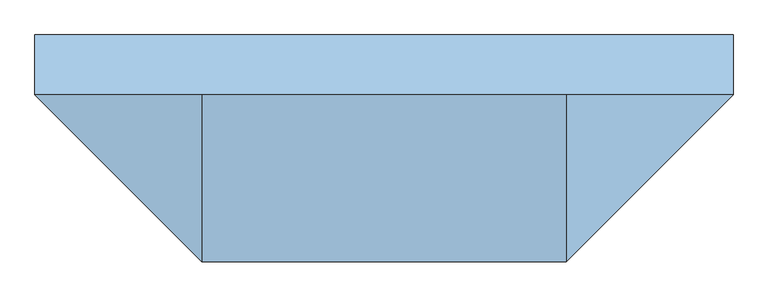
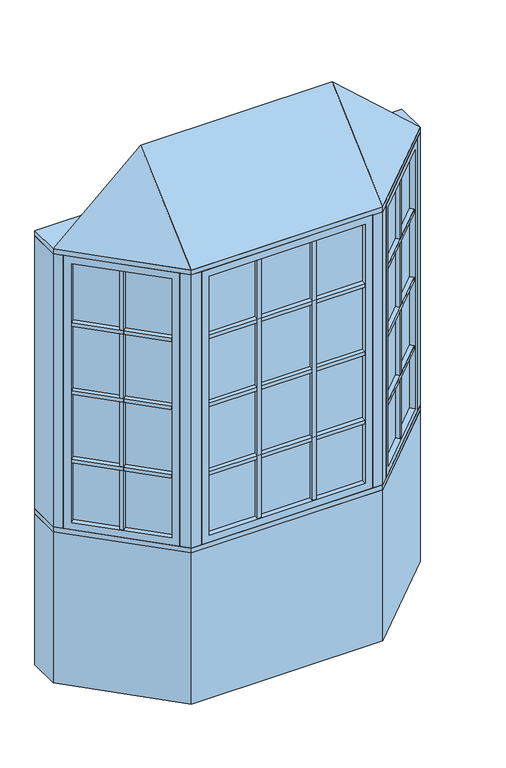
"""IFC4 building model written with IfcOpenShell, lengths in millimetres: window geometry, Pollard_Windows_Tudor Casement Bows and Bays : AML-BAY 45 AFR0514-08-500_GC."""

from ifc_helpers import new_model, si_unit, frame, origin, origin_with_axes, place, context, project, spatial, polyline, outline, extrude, faceted_brep, source, transform, mapped, element, save


def window_26590843(model_context):
    return source(origin(), model_context, "Body", "SolidModel", [
        extrude(outline(polyline([(522.8614193, -437.1108753), (507.3050701, -421.5545261), (815.116171, -113.7434252), (830.6725202, -129.2997743), (522.8614193, -437.1108753)])), frame((0.0, 0.0, 1490.998), z_axis=(0.0, 0.0, 1.0), x_axis=(1.0, 0.0, 0.0)), (0.0, 0.0, 1.0), 18.0),
        extrude(outline(polyline([(503.7129677, -417.9624236), (488.1566185, -402.4060744), (795.9677194, -94.5949735), (811.5240686, -110.1513227), (503.7129677, -417.9624236)])), frame((0.0, 0.0, 1490.998), z_axis=(0.0, 0.0, 1.0), x_axis=(1.0, 0.0, 0.0)), (0.0, 0.0, 1.0), 18.0),
        extrude(outline(polyline([(522.8614193, -437.1108753), (507.3050701, -421.5545261), (815.116171, -113.7434252), (830.6725202, -129.2997743), (522.8614193, -437.1108753)])), frame((0.0, 0.0, 1140.998), z_axis=(0.0, 0.0, 1.0), x_axis=(1.0, 0.0, 0.0)), (0.0, 0.0, 1.0), 18.0),
        extrude(outline(polyline([(503.7129677, -417.9624236), (488.1566185, -402.4060744), (795.9677194, -94.5949735), (811.5240686, -110.1513227), (503.7129677, -417.9624236)])), frame((0.0, 0.0, 1140.998), z_axis=(0.0, 0.0, 1.0), x_axis=(1.0, 0.0, 0.0)), (0.0, 0.0, 1.0), 18.0),
        extrude(outline(polyline([(522.8614193, -437.1108753), (507.3050701, -421.5545261), (815.116171, -113.7434252), (830.6725202, -129.2997743), (522.8614193, -437.1108753)])), frame((0.0, 0.0, 1490.998), z_axis=(0.0, 0.0, 1.0), x_axis=(1.0, 0.0, 0.0)), (0.0, 0.0, 1.0), 18.0),
        extrude(outline(polyline([(503.7129677, -417.9624236), (488.1566185, -402.4060744), (795.9677194, -94.5949735), (811.5240686, -110.1513227), (503.7129677, -417.9624236)])), frame((0.0, 0.0, 1490.998), z_axis=(0.0, 0.0, 1.0), x_axis=(1.0, 0.0, 0.0)), (0.0, 0.0, 1.0), 18.0),
        extrude(outline(polyline([(522.8614193, -437.1108753), (507.3050701, -421.5545261), (815.116171, -113.7434252), (830.6725202, -129.2997743), (522.8614193, -437.1108753)])), frame((0.0, 0.0, 1490.998), z_axis=(0.0, 0.0, 1.0), x_axis=(1.0, 0.0, 0.0)), (0.0, 0.0, 1.0), 18.0),
        extrude(outline(polyline([(503.7129677, -417.9624236), (488.1566185, -402.4060744), (795.9677194, -94.5949735), (811.5240686, -110.1513227), (503.7129677, -417.9624236)])), frame((0.0, 0.0, 1490.998), z_axis=(0.0, 0.0, 1.0), x_axis=(1.0, 0.0, 0.0)), (0.0, 0.0, 1.0), 18.0),
        extrude(outline(polyline([(522.8614193, -437.1108753), (507.3050701, -421.5545261), (815.116171, -113.7434252), (830.6725202, -129.2997743), (522.8614193, -437.1108753)])), frame((0.0, 0.0, 1840.998), z_axis=(0.0, 0.0, 1.0), x_axis=(1.0, 0.0, 0.0)), (0.0, 0.0, 1.0), 18.0),
        extrude(outline(polyline([(503.7129677, -417.9624236), (488.1566185, -402.4060744), (795.9677194, -94.5949735), (811.5240686, -110.1513227), (503.7129677, -417.9624236)])), frame((0.0, 0.0, 1840.998), z_axis=(0.0, 0.0, 1.0), x_axis=(1.0, 0.0, 0.0)), (0.0, 0.0, 1.0), 18.0),
        extrude(outline(polyline([(667.5745816, -261.2850146), (683.1309308, -276.8413638), (670.4030087, -289.5692858), (654.8466595, -274.0129366), (667.5745816, -261.2850146)])), frame((0.0, 0.0, 835.8628), z_axis=(0.0, 0.0, 1.0), x_axis=(1.0, 0.0, 0.0)), (0.0, 0.0, 1.0), 1328.2704),
        extrude(outline(polyline([(663.9824791, -257.6929121), (651.2545571, -270.4208342), (635.6982079, -254.864485), (648.42613, -242.1365629), (663.9824791, -257.6929121)])), frame((0.0, 0.0, 835.8628), z_axis=(0.0, 0.0, 1.0), x_axis=(1.0, 0.0, 0.0)), (0.0, 0.0, 1.0), 1328.2704),
        extrude(outline(polyline([(824.0964271, -104.763169), (498.324814, -430.5347822), (494.7327115, -426.9426797), (820.5043247, -101.1710666), (824.0964271, -104.763169)])), frame((0.0, 0.0, 823.1628), z_axis=(0.0, 0.0, 1.0), x_axis=(1.0, 0.0, 0.0)), (0.0, 0.0, 1.0), 1353.6704),
        faceted_brep([(815.116171, -113.7434252, 835.8628), (833.0766833, -131.7039374, 835.8628), (833.0766833, -131.7039374, 2164.1332), (815.116171, -113.7434252, 2164.1332), (820.5043247, -101.1710666, 823.1628), (824.0964271, -104.763169, 823.1628), (824.0964271, -104.763169, 2176.8332), (820.5043247, -101.1710666, 2176.8332), (793.5635563, -92.1908105, 835.8628), (811.5240686, -110.1513227, 835.8628), (811.5240686, -110.1513227, 2164.1332), (793.5635563, -92.1908105, 2164.1332), (858.4369265, -106.3436941, 799.998), (818.9237996, -66.8305672, 799.998), (818.9237996, -66.8305672, 2199.998), (858.4369265, -106.3436941, 2199.998), (525.2655823, -439.5150383, 2164.1332), (507.3050701, -421.5545261, 2164.1332), (498.324814, -430.5347822, 2176.8332), (494.7327115, -426.9426797, 2176.8332), (503.7129677, -417.9624236, 2164.1332), (485.7524554, -400.0019114, 2164.1332), (460.3922121, -425.3621547, 2199.998), (499.9053391, -464.8752816, 2199.998), (525.2655823, -439.5150383, 835.8628), (507.3050701, -421.5545261, 835.8628), (498.324814, -430.5347822, 823.1628), (494.7327115, -426.9426797, 823.1628), (503.7129677, -417.9624236, 835.8628), (485.7524554, -400.0019114, 835.8628), (460.3922121, -425.3621547, 799.998), (499.9053391, -464.8752816, 799.998)], [[[0, 1, 2, 3]], [[4, 5, 6, 7]], [[8, 9, 10, 11]], [[12, 13, 14, 15]], [[3, 2, 16, 17]], [[7, 6, 18, 19]], [[11, 10, 20, 21]], [[15, 14, 22, 23]], [[17, 16, 24, 25]], [[19, 18, 26, 27]], [[21, 20, 28, 29]], [[23, 22, 30, 31]], [[25, 24, 1, 0]], [[5, 26, 18, 6], [3, 17, 25, 0]], [[27, 26, 5, 4]], [[7, 19, 27, 4], [9, 28, 20, 10]], [[29, 28, 9, 8]], [[13, 30, 22, 14], [11, 21, 29, 8]], [[31, 30, 13, 12]], [[15, 23, 31, 12], [1, 24, 16, 2]]]),
        extrude(outline(polyline([(142.4618667, -474.8306207), (142.4618667, -496.8306207), (124.4618667, -496.8306207), (124.4618667, -474.8306207), (142.4618667, -474.8306207)])), frame((0.0, 0.0, 835.8628), z_axis=(0.0, 0.0, 1.0), x_axis=(1.0, 0.0, 0.0)), (0.0, 0.0, 1.0), 1328.2704),
        extrude(outline(polyline([(142.4618667, -469.7506207), (124.4618667, -469.7506207), (124.4618667, -447.7506207), (142.4618667, -447.7506207), (142.4618667, -469.7506207)])), frame((0.0, 0.0, 835.8628), z_axis=(0.0, 0.0, 1.0), x_axis=(1.0, 0.0, 0.0)), (0.0, 0.0, 1.0), 1328.2704),
        extrude(outline(polyline([(-124.4618667, -474.8306207), (-124.4618667, -496.8306207), (-142.4618667, -496.8306207), (-142.4618667, -474.8306207), (-124.4618667, -474.8306207)])), frame((0.0, 0.0, 835.8628), z_axis=(0.0, 0.0, 1.0), x_axis=(1.0, 0.0, 0.0)), (0.0, 0.0, 1.0), 1328.2704),
        extrude(outline(polyline([(-124.4618667, -469.7506207), (-142.4618667, -469.7506207), (-142.4618667, -447.7506207), (-124.4618667, -447.7506207), (-124.4618667, -469.7506207)])), frame((0.0, 0.0, 835.8628), z_axis=(0.0, 0.0, 1.0), x_axis=(1.0, 0.0, 0.0)), (0.0, 0.0, 1.0), 1328.2704),
        extrude(outline(polyline([(-378.6852, -496.8306207), (-378.6852, -474.8306207), (378.6852, -474.8306207), (378.6852, -496.8306207), (-378.6852, -496.8306207)])), frame((0.0, 0.0, 1140.998), z_axis=(0.0, 0.0, 1.0), x_axis=(1.0, 0.0, 0.0)), (0.0, 0.0, 1.0), 18.0),
        extrude(outline(polyline([(-378.6852, -469.7506207), (-378.6852, -447.7506207), (378.6852, -447.7506207), (378.6852, -469.7506207), (-378.6852, -469.7506207)])), frame((0.0, 0.0, 1140.998), z_axis=(0.0, 0.0, 1.0), x_axis=(1.0, 0.0, 0.0)), (0.0, 0.0, 1.0), 18.0),
        extrude(outline(polyline([(-378.6852, -496.8306207), (-378.6852, -474.8306207), (378.6852, -474.8306207), (378.6852, -496.8306207), (-378.6852, -496.8306207)])), frame((0.0, 0.0, 1490.998), z_axis=(0.0, 0.0, 1.0), x_axis=(1.0, 0.0, 0.0)), (0.0, 0.0, 1.0), 18.0),
        extrude(outline(polyline([(-378.6852, -469.7506207), (-378.6852, -447.7506207), (378.6852, -447.7506207), (378.6852, -469.7506207), (-378.6852, -469.7506207)])), frame((0.0, 0.0, 1490.998), z_axis=(0.0, 0.0, 1.0), x_axis=(1.0, 0.0, 0.0)), (0.0, 0.0, 1.0), 18.0),
        extrude(outline(polyline([(-378.6852, -496.8306207), (-378.6852, -474.8306207), (378.6852, -474.8306207), (378.6852, -496.8306207), (-378.6852, -496.8306207)])), frame((0.0, 0.0, 1490.998), z_axis=(0.0, 0.0, 1.0), x_axis=(1.0, 0.0, 0.0)), (0.0, 0.0, 1.0), 18.0),
        extrude(outline(polyline([(-378.6852, -469.7506207), (-378.6852, -447.7506207), (378.6852, -447.7506207), (378.6852, -469.7506207), (-378.6852, -469.7506207)])), frame((0.0, 0.0, 1490.998), z_axis=(0.0, 0.0, 1.0), x_axis=(1.0, 0.0, 0.0)), (0.0, 0.0, 1.0), 18.0),
        extrude(outline(polyline([(-378.6852, -496.8306207), (-378.6852, -474.8306207), (378.6852, -474.8306207), (378.6852, -496.8306207), (-378.6852, -496.8306207)])), frame((0.0, 0.0, 1490.998), z_axis=(0.0, 0.0, 1.0), x_axis=(1.0, 0.0, 0.0)), (0.0, 0.0, 1.0), 18.0),
        extrude(outline(polyline([(-378.6852, -469.7506207), (-378.6852, -447.7506207), (378.6852, -447.7506207), (378.6852, -469.7506207), (-378.6852, -469.7506207)])), frame((0.0, 0.0, 1490.998), z_axis=(0.0, 0.0, 1.0), x_axis=(1.0, 0.0, 0.0)), (0.0, 0.0, 1.0), 18.0),
        extrude(outline(polyline([(-830.6725202, -129.2997743), (-815.116171, -113.7434252), (-507.3050701, -421.5545261), (-522.8614193, -437.1108753), (-830.6725202, -129.2997743)])), frame((0.0, 0.0, 1140.998), z_axis=(0.0, 0.0, 1.0), x_axis=(1.0, 0.0, 0.0)), (0.0, 0.0, 1.0), 18.0),
        extrude(outline(polyline([(-811.5240686, -110.1513227), (-795.9677194, -94.5949735), (-488.1566185, -402.4060744), (-503.7129677, -417.9624236), (-811.5240686, -110.1513227)])), frame((0.0, 0.0, 1140.998), z_axis=(0.0, 0.0, 1.0), x_axis=(1.0, 0.0, 0.0)), (0.0, 0.0, 1.0), 18.0),
        extrude(outline(polyline([(-830.6725202, -129.2997743), (-815.116171, -113.7434252), (-507.3050701, -421.5545261), (-522.8614193, -437.1108753), (-830.6725202, -129.2997743)])), frame((0.0, 0.0, 1490.998), z_axis=(0.0, 0.0, 1.0), x_axis=(1.0, 0.0, 0.0)), (0.0, 0.0, 1.0), 18.0),
        extrude(outline(polyline([(-811.5240686, -110.1513227), (-795.9677194, -94.5949735), (-488.1566185, -402.4060744), (-503.7129677, -417.9624236), (-811.5240686, -110.1513227)])), frame((0.0, 0.0, 1490.998), z_axis=(0.0, 0.0, 1.0), x_axis=(1.0, 0.0, 0.0)), (0.0, 0.0, 1.0), 18.0),
        extrude(outline(polyline([(-830.6725202, -129.2997743), (-815.116171, -113.7434252), (-507.3050701, -421.5545261), (-522.8614193, -437.1108753), (-830.6725202, -129.2997743)])), frame((0.0, 0.0, 1490.998), z_axis=(0.0, 0.0, 1.0), x_axis=(1.0, 0.0, 0.0)), (0.0, 0.0, 1.0), 18.0),
        extrude(outline(polyline([(-811.5240686, -110.1513227), (-795.9677194, -94.5949735), (-488.1566185, -402.4060744), (-503.7129677, -417.9624236), (-811.5240686, -110.1513227)])), frame((0.0, 0.0, 1490.998), z_axis=(0.0, 0.0, 1.0), x_axis=(1.0, 0.0, 0.0)), (0.0, 0.0, 1.0), 18.0),
        extrude(outline(polyline([(-830.6725202, -129.2997743), (-815.116171, -113.7434252), (-507.3050701, -421.5545261), (-522.8614193, -437.1108753), (-830.6725202, -129.2997743)])), frame((0.0, 0.0, 1490.998), z_axis=(0.0, 0.0, 1.0), x_axis=(1.0, 0.0, 0.0)), (0.0, 0.0, 1.0), 18.0),
        extrude(outline(polyline([(-811.5240686, -110.1513227), (-795.9677194, -94.5949735), (-488.1566185, -402.4060744), (-503.7129677, -417.9624236), (-811.5240686, -110.1513227)])), frame((0.0, 0.0, 1490.998), z_axis=(0.0, 0.0, 1.0), x_axis=(1.0, 0.0, 0.0)), (0.0, 0.0, 1.0), 18.0),
        extrude(outline(polyline([(-830.6725202, -129.2997743), (-815.116171, -113.7434252), (-507.3050701, -421.5545261), (-522.8614193, -437.1108753), (-830.6725202, -129.2997743)])), frame((0.0, 0.0, 1840.998), z_axis=(0.0, 0.0, 1.0), x_axis=(1.0, 0.0, 0.0)), (0.0, 0.0, 1.0), 18.0),
        extrude(outline(polyline([(-811.5240686, -110.1513227), (-795.9677194, -94.5949735), (-488.1566185, -402.4060744), (-503.7129677, -417.9624236), (-811.5240686, -110.1513227)])), frame((0.0, 0.0, 1840.998), z_axis=(0.0, 0.0, 1.0), x_axis=(1.0, 0.0, 0.0)), (0.0, 0.0, 1.0), 18.0),
        extrude(outline(polyline([(-378.6852, -496.8306207), (-378.6852, -474.8306207), (378.6852, -474.8306207), (378.6852, -496.8306207), (-378.6852, -496.8306207)])), frame((0.0, 0.0, 1840.998), z_axis=(0.0, 0.0, 1.0), x_axis=(1.0, 0.0, 0.0)), (0.0, 0.0, 1.0), 18.0),
        extrude(outline(polyline([(-378.6852, -469.7506207), (-378.6852, -447.7506207), (378.6852, -447.7506207), (378.6852, -469.7506207), (-378.6852, -469.7506207)])), frame((0.0, 0.0, 1840.998), z_axis=(0.0, 0.0, 1.0), x_axis=(1.0, 0.0, 0.0)), (0.0, 0.0, 1.0), 18.0),
        extrude(outline(polyline([(-654.8466595, -274.0129366), (-670.4030087, -289.5692858), (-683.1309308, -276.8413638), (-667.5745816, -261.2850146), (-654.8466595, -274.0129366)])), frame((0.0, 0.0, 835.8628), z_axis=(0.0, 0.0, 1.0), x_axis=(1.0, 0.0, 0.0)), (0.0, 0.0, 1.0), 1328.2704),
        extrude(outline(polyline([(-651.2545571, -270.4208342), (-663.9824791, -257.6929121), (-648.42613, -242.1365629), (-635.6982079, -254.864485), (-651.2545571, -270.4208342)])), frame((0.0, 0.0, 835.8628), z_axis=(0.0, 0.0, 1.0), x_axis=(1.0, 0.0, 0.0)), (0.0, 0.0, 1.0), 1328.2704),
        extrude(outline(polyline([(-498.324814, -430.5347822), (-824.0964271, -104.763169), (-820.5043247, -101.1710666), (-494.7327115, -426.9426797), (-498.324814, -430.5347822)])), frame((0.0, 0.0, 823.1628), z_axis=(0.0, 0.0, 1.0), x_axis=(1.0, 0.0, 0.0)), (0.0, 0.0, 1.0), 1353.6704),
        faceted_brep([(-503.7129677, -417.9624236, 2164.1332), (-485.7524554, -400.0019114, 2164.1332), (-485.7524554, -400.0019114, 835.8628), (-503.7129677, -417.9624236, 835.8628), (-498.324814, -430.5347822, 2176.8332), (-494.7327115, -426.9426797, 2176.8332), (-494.7327115, -426.9426797, 823.1628), (-498.324814, -430.5347822, 823.1628), (-525.2655823, -439.5150383, 2164.1332), (-507.3050701, -421.5545261, 2164.1332), (-507.3050701, -421.5545261, 835.8628), (-525.2655823, -439.5150383, 835.8628), (-460.3922121, -425.3621547, 2199.998), (-499.9053391, -464.8752816, 2199.998), (-499.9053391, -464.8752816, 799.998), (-460.3922121, -425.3621547, 799.998), (-793.5635563, -92.1908105, 835.8628), (-811.5240686, -110.1513227, 835.8628), (-820.5043247, -101.1710666, 823.1628), (-824.0964271, -104.763169, 823.1628), (-815.116171, -113.7434252, 835.8628), (-833.0766833, -131.7039374, 835.8628), (-858.4369265, -106.3436941, 799.998), (-818.9237996, -66.8305672, 799.998), (-793.5635563, -92.1908105, 2164.1332), (-811.5240686, -110.1513227, 2164.1332), (-820.5043247, -101.1710666, 2176.8332), (-824.0964271, -104.763169, 2176.8332), (-815.116171, -113.7434252, 2164.1332), (-833.0766833, -131.7039374, 2164.1332), (-858.4369265, -106.3436941, 2199.998), (-818.9237996, -66.8305672, 2199.998)], [[[0, 1, 2, 3]], [[4, 5, 6, 7]], [[8, 9, 10, 11]], [[12, 13, 14, 15]], [[3, 2, 16, 17]], [[7, 6, 18, 19]], [[11, 10, 20, 21]], [[15, 14, 22, 23]], [[17, 16, 24, 25]], [[19, 18, 26, 27]], [[21, 20, 28, 29]], [[23, 22, 30, 31]], [[15, 23, 31, 12], [1, 24, 16, 2]], [[25, 24, 1, 0]], [[5, 26, 18, 6], [3, 17, 25, 0]], [[27, 26, 5, 4]], [[7, 19, 27, 4], [9, 28, 20, 10]], [[29, 28, 9, 8]], [[13, 30, 22, 14], [11, 21, 29, 8]], [[31, 30, 13, 12]]]),
        extrude(outline(polyline([(391.3852, -474.8306207), (-391.3852, -474.8306207), (-391.3852, -469.7506207), (391.3852, -469.7506207), (391.3852, -474.8306207)])), frame((0.0, 0.0, 823.1628), z_axis=(0.0, 0.0, 1.0), x_axis=(1.0, 0.0, 0.0)), (0.0, 0.0, 1.0), 1353.6704),
        faceted_brep([(378.6852, -474.8306207, 835.8628), (378.6852, -500.2306207, 835.8628), (378.6852, -500.2306207, 2164.1332), (378.6852, -474.8306207, 2164.1332), (391.3852, -469.7506207, 823.1628), (391.3852, -474.8306207, 823.1628), (391.3852, -474.8306207, 2176.8332), (391.3852, -469.7506207, 2176.8332), (378.6852, -444.3506207, 835.8628), (378.6852, -469.7506207, 835.8628), (378.6852, -469.7506207, 2164.1332), (378.6852, -444.3506207, 2164.1332), (414.55, -500.2306207, 799.998), (414.55, -444.3506207, 799.998), (414.55, -444.3506207, 2199.998), (414.55, -500.2306207, 2199.998), (-378.6852, -500.2306207, 2164.1332), (-378.6852, -474.8306207, 2164.1332), (-391.3852, -474.8306207, 2176.8332), (-391.3852, -469.7506207, 2176.8332), (-378.6852, -469.7506207, 2164.1332), (-378.6852, -444.3506207, 2164.1332), (-414.55, -444.3506207, 2199.998), (-414.55, -500.2306207, 2199.998), (-378.6852, -500.2306207, 835.8628), (-378.6852, -474.8306207, 835.8628), (-391.3852, -474.8306207, 823.1628), (-391.3852, -469.7506207, 823.1628), (-378.6852, -469.7506207, 835.8628), (-378.6852, -444.3506207, 835.8628), (-414.55, -444.3506207, 799.998), (-414.55, -500.2306207, 799.998)], [[[0, 1, 2, 3]], [[4, 5, 6, 7]], [[8, 9, 10, 11]], [[12, 13, 14, 15]], [[3, 2, 16, 17]], [[7, 6, 18, 19]], [[11, 10, 20, 21]], [[15, 14, 22, 23]], [[17, 16, 24, 25]], [[19, 18, 26, 27]], [[21, 20, 28, 29]], [[23, 22, 30, 31]], [[15, 23, 31, 12], [1, 24, 16, 2]], [[25, 24, 1, 0]], [[5, 26, 18, 6], [3, 17, 25, 0]], [[27, 26, 5, 4]], [[7, 19, 27, 4], [9, 28, 20, 10]], [[29, 28, 9, 8]], [[13, 30, 22, 14], [11, 21, 29, 8]], [[31, 30, 13, 12]]]),
        faceted_brep([(890.0, -74.7806207, 2225.398), (464.55, -500.2306207, 2225.398), (-464.55, -500.2306207, 2225.398), (-890.0, -74.7806207, 2225.398), (-464.55, -74.7806207, 2606.398), (464.55, -74.7806207, 2606.398)], [[[0, 1, 2, 3]], [[3, 2, 4]], [[2, 1, 5, 4]], [[1, 0, 5]], [[0, 3, 4, 5]]]),
        extrude(outline(polyline([(-890.0, 77.6193793), (890.0, 77.6193793), (890.0, -74.7806207), (464.55, -500.2306207), (-464.55, -500.2306207), (-890.0, -74.7806207), (-890.0, 77.6193793)])), frame((0.0, 0.0, 2199.998), z_axis=(0.0, 0.0, 1.0), x_axis=(1.0, 0.0, 0.0)), (0.0, 0.0, 1.0), 25.4),
        extrude(outline(polyline([(-890.0, -74.7806207), (-890.0, 77.6193793), (-826.8738531, 77.6193793), (-826.8738531, -74.7806207), (-858.4369265, -106.3436941), (-890.0, -74.7806207)])), frame((0.0, 0.0, 799.998), z_axis=(0.0, 0.0, 1.0), x_axis=(1.0, 0.0, 0.0)), (0.0, 0.0, 1.0), 1400.0),
        extrude(outline(polyline([(890.0, 77.6193793), (890.0, -74.7806207), (858.4369265, -106.3436941), (826.8738531, -74.7806207), (826.8738531, 77.6193793), (890.0, 77.6193793)])), frame((0.0, 0.0, 799.998), z_axis=(0.0, 0.0, 1.0), x_axis=(1.0, 0.0, 0.0)), (0.0, 0.0, 1.0), 1400.0),
        extrude(outline(polyline([(464.55, -500.2306207), (414.55, -500.2306207), (414.55, -450.2306207), (443.8393219, -450.2306207), (464.55, -429.5199425), (499.9053391, -464.8752816), (464.55, -500.2306207)])), frame((0.0, 0.0, 799.998), z_axis=(0.0, 0.0, 1.0), x_axis=(1.0, 0.0, 0.0)), (0.0, 0.0, 1.0), 1400.0),
        extrude(outline(polyline([(-464.55, -500.2306207), (-499.9053391, -464.8752816), (-464.55, -429.5199425), (-443.8393219, -450.2306207), (-414.55, -450.2306207), (-414.55, -500.2306207), (-464.55, -500.2306207)])), frame((0.0, 0.0, 799.998), z_axis=(0.0, 0.0, 1.0), x_axis=(1.0, 0.0, 0.0)), (0.0, 0.0, 1.0), 1400.0),
        extrude(outline(polyline([(-464.55, -500.2306207), (-890.0, -74.7806207), (-890.0, 77.6193793), (-826.8738531, 77.6193793), (-401.4238531, -347.8306207), (401.4238531, -347.8306207), (826.8738531, 77.6193793), (890.0, 77.6193793), (890.0, -74.7806207), (464.55, -500.2306207), (-464.55, -500.2306207)])), frame((0.0, 0.0, 774.598), z_axis=(0.0, 0.0, 1.0), x_axis=(1.0, 0.0, 0.0)), (0.0, 0.0, 1.0), 25.4),
        extrude(outline(polyline([(-890.0, -74.7806207), (-890.0, 77.6193793), (-826.8738531, 77.6193793), (-401.4238531, -347.8306207), (401.4238531, -347.8306207), (826.8738531, 77.6193793), (890.0, 77.6193793), (890.0, -74.7806207), (464.55, -500.2306207), (-464.55, -500.2306207), (-890.0, -74.7806207)])), origin_with_axes(), (0.0, 0.0, 1.0), 774.598),
    ])


if __name__ == "__main__":
    model = new_model("IFC4")
    model_context = context("Model", 3, world=origin())
    ifc_project = project(units=[si_unit("LENGTHUNIT", "METRE", prefix="MILLI")], contexts=[model_context])
    site = spatial("IfcSite", under=ifc_project)
    building = spatial("IfcBuilding", under=site)
    placement = place(None, origin())
    window_shape = window_26590843(model_context)
    element("IfcWindow", 1, ObjectType="Pollard_Windows_Tudor Casement Bows and Bays : AML-BAY 45 AFR0514-08-500_GC", at=placement, inside=building, context=model_context, shape_type="MappedRepresentation", body=[
        mapped(window_shape, transform((0.0, 0.0, 0.0), x_axis=(1.0, 0.0, 0.0), y_axis=(0.0, 1.0, 0.0), z_axis=(0.0, 0.0, 1.0))),
    ])
    save(model, "model.ifc")
